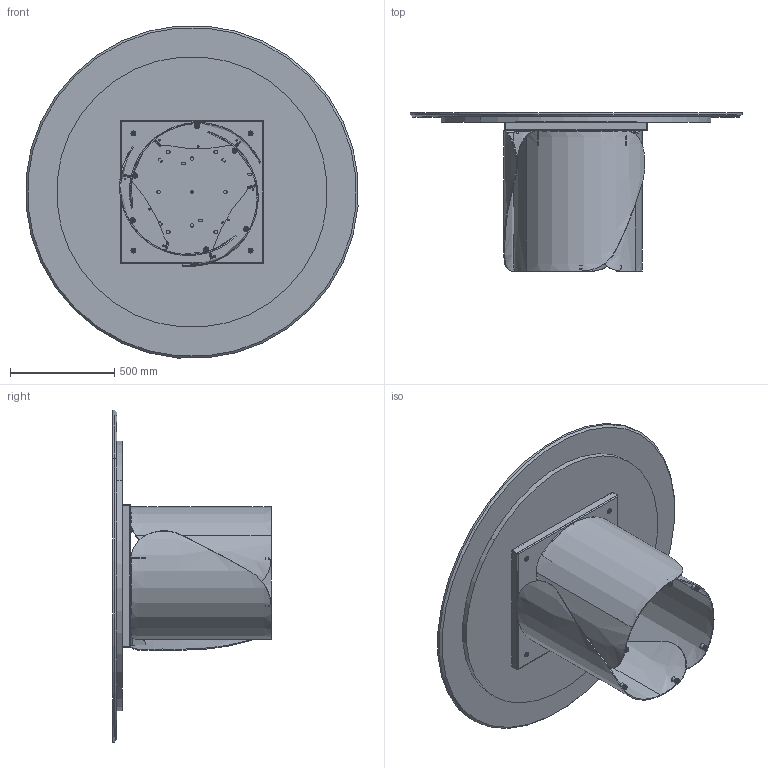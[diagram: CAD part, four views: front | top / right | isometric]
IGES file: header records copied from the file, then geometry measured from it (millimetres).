
Start section: SolidWorks IGES file using analytic representation for surfaces
Global section: file name: Y:\eforma\TECNICO\SOLIDWORKS\E-FORMA\1-TAVOLI\ONDA\02 parts\ON08M.IGS; native system: SolidWorks 2022; preprocessor: SolidWorks 2022; author: eforma.tech; date: 240806.153139; units: millimetre
Bounding box: 1593.91 x 761 x 1593.91 mm (x, y, z)
Volume: 83901395.7 mm3; surface area: 11490350 mm2
Topology: 63 solids, 63 shells, 1715 faces, 4041 edges, 2479 vertices
Faces by surface type: revolution 979, plane 676, bspline 60
